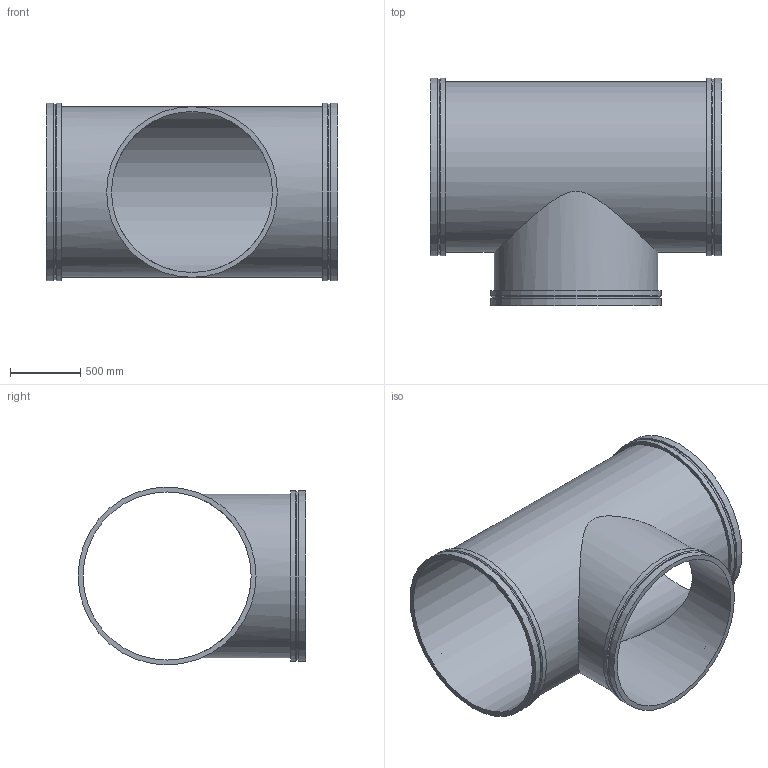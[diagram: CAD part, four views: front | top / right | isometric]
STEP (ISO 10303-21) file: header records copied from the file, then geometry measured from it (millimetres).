
FILE_DESCRIPTION(/* description */ ('VIC REDUCING TEE No W025 VR','CAx-IF Rec.Pracs.---Representation and Presentation of Product Manufacturing Information (PMI)---4.0---2014-10-13'),/* implementation_level */ '2;1');
FILE_NAME(/* name */ 'C:\Users\kkamble\AppData\Roaming\Autodesk\ApplicationPlugins\Back Up\Victaulic_Vic-Ring_Tee Reducing_No W25 VR (AGR)\Victaulic_Vic-Ring_Tee Reducing_No W25 VR (AGR)_48.0x46.0 (1200x1150).stp',/* time_stamp */ '2020-09-10T11:57:32+05:00',/* author */ ('mchristi'),/* organization */ ('Victaulic'),/* preprocessor_version */ 'ST-DEVELOPER v17.2',/* originating_system */ 'Autodesk Inventor 2019',/* authorisation */ '');
FILE_SCHEMA (('AP242_MANAGED_MODEL_BASED_3D_ENGINEERING_MIM_LF { 1 0 10303 442 1 1 4 }'));
Length unit declared in the file: inch
Products named in the file (1): W25 VR-48.0x46.0
Bounding box: 2082.8 x 1625.6 x 1270 mm (x, y, z)
Volume: 113872678.9 mm3; surface area: 18322465 mm2
Topology: 1 solids, 1 shells, 25 faces, 68 edges, 52 vertices
Faces by surface type: cylinder 13, plane 9, cone 3
Full cylindrical faces by diameter (mm): 1149.35 x1, 1168.4 x1, 1200.15 x1, 1203.325 x1, 1219.2 x3, 1254.125 x2, 1270 x4
Entity records: 1315 total; most frequent: CARTESIAN_POINT 471, DIRECTION 190, ORIENTED_EDGE 136, AXIS2_PLACEMENT_3D 87, EDGE_CURVE 68, VERTEX_POINT 52, CIRCLE 48, EDGE_LOOP 36
